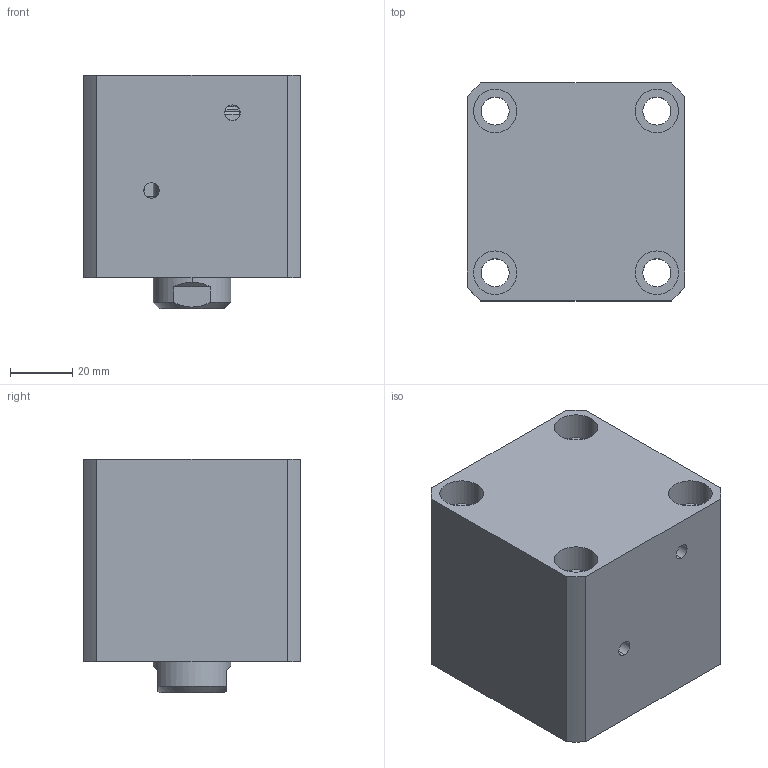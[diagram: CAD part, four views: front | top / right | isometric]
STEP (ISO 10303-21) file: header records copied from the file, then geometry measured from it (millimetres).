
FILE_DESCRIPTION (( 'STEP AP214' ), '1' );
FILE_NAME ('chtb-sdma40x10n_asm.STEP', '2018-06-06T07:49:26', ( 'Windows' ), ( 'Microsoft' ), 'SwSTEP 2.0', 'SolidWorks 2015', '' );
FILE_SCHEMA (( 'AUTOMOTIVE_DESIGN' ));
Length unit declared in the file: millimetre
Products named in the file (4): CHTB-SDMA40X10NBT; CHTB-SD40X10NHSG; CHTB-SD40QG; chtb-sdma40x10n_asm
Assembly tree (3 placements, depth 2):
  chtb-sdma40x10n_asm
    CHTB-SD40QG
    CHTB-SD40X10NHSG
    CHTB-SDMA40X10NBT
Bounding box: 70 x 70 x 75 mm (x, y, z)
Volume: 279433.6 mm3; surface area: 65136.3 mm2
Topology: 3 solids, 3 shells, 157 faces, 413 edges, 274 vertices
Faces by surface type: cylinder 84, plane 36, bspline 14, torus 14, cone 9
Entity records: 10139 total; most frequent: CARTESIAN_POINT 6157, ORIENTED_EDGE 814, DIRECTION 768, EDGE_CURVE 407, AXIS2_PLACEMENT_3D 326, VERTEX_POINT 274, EDGE_LOOP 193, CIRCLE 177
